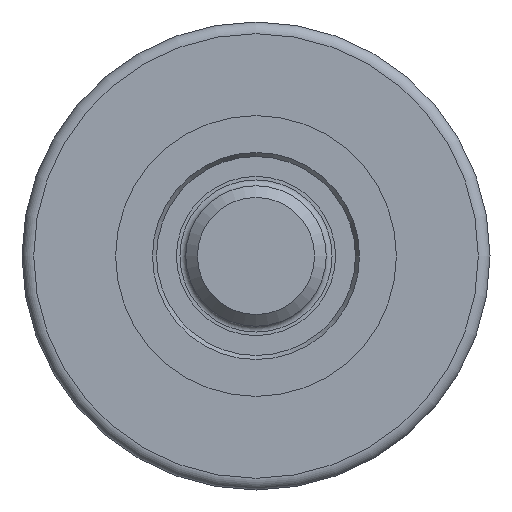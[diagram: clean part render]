
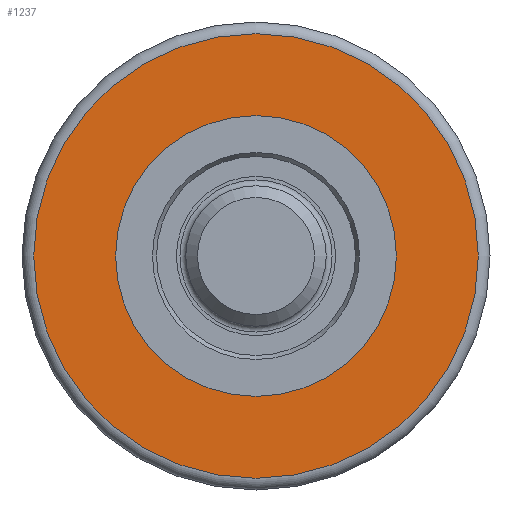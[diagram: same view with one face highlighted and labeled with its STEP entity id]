
A CAD part, left-side view. The second image highlights one B-rep face of the part: STEP entity #1237.
In plain terms, the highlighted planar face has unit normal (-1, 0, 0).
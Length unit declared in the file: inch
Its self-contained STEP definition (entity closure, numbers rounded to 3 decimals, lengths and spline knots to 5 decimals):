
#59=FACE_BOUND('',#324,.T.);
#103=PLANE('',#1576);
#226=FACE_OUTER_BOUND('',#323,.T.);
#323=EDGE_LOOP('',(#1135));
#324=EDGE_LOOP('',(#1136));
#549=CIRCLE('',#1552,0.37402);
#553=CIRCLE('',#1559,0.23622);
#649=VERTEX_POINT('',#2307);
#653=VERTEX_POINT('',#2321);
#800=EDGE_CURVE('',#649,#649,#549,.T.);
#806=EDGE_CURVE('',#653,#653,#553,.T.);
#1135=ORIENTED_EDGE('',*,*,#800,.F.);
#1136=ORIENTED_EDGE('',*,*,#806,.T.);
#1237=ADVANCED_FACE('',(#226,#59),#103,.T.);
#1552=AXIS2_PLACEMENT_3D('',#2309,#1940,#1941);
#1559=AXIS2_PLACEMENT_3D('',#2322,#1956,#1957);
#1576=AXIS2_PLACEMENT_3D('',#2353,#1996,#1997);
#1940=DIRECTION('center_axis',(1.,0.,0.));
#1941=DIRECTION('ref_axis',(0.,0.,1.));
#1956=DIRECTION('center_axis',(1.,0.,0.));
#1957=DIRECTION('ref_axis',(0.,0.,1.));
#1996=DIRECTION('center_axis',(-1.,0.,0.));
#1997=DIRECTION('ref_axis',(0.,0.,-1.));
#2307=CARTESIAN_POINT('',(-1.06299,0.,0.37402));
#2309=CARTESIAN_POINT('Origin',(-1.06299,0.,0.));
#2321=CARTESIAN_POINT('',(-1.06299,0.,-0.23622));
#2322=CARTESIAN_POINT('Origin',(-1.06299,0.,0.));
#2353=CARTESIAN_POINT('Origin',(-1.06299,0.,0.18701));
